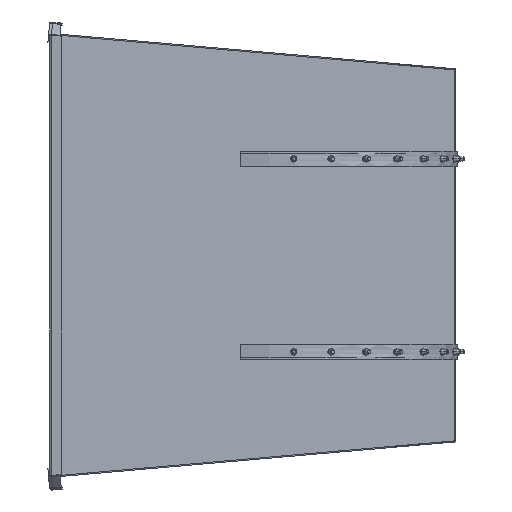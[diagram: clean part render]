
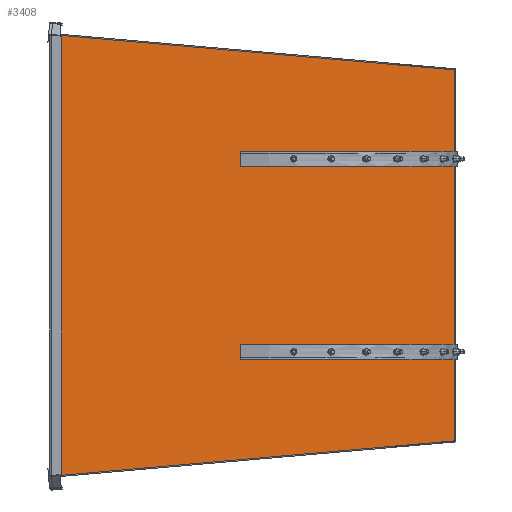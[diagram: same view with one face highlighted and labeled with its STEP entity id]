
A CAD part, left-side view. The second image highlights one B-rep face of the part: STEP entity #3408.
In plain terms, the highlighted planar face has unit normal (-0.707, -0.707, 0).
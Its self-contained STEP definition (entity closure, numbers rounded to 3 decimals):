
#279 = FACE_OUTER_BOUND ( 'NONE', #7654, .T. ) ;
#300 = DIRECTION ( 'NONE',  ( 0.706, -0.706, -0.062 ) ) ;
#365 = ORIENTED_EDGE ( 'NONE', *, *, #7656, .F. ) ;
#528 = ORIENTED_EDGE ( 'NONE', *, *, #5271, .T. ) ;
#534 = VERTEX_POINT ( 'NONE', #3857 ) ;
#754 = VERTEX_POINT ( 'NONE', #5859 ) ;
#820 = VERTEX_POINT ( 'NONE', #6514 ) ;
#825 = VERTEX_POINT ( 'NONE', #3319 ) ;
#893 = VECTOR ( 'NONE', #1180, 1000. ) ;
#940 = LINE ( 'NONE', #4391, #3255 ) ;
#1180 = DIRECTION ( 'NONE',  ( 0.706, -0.706, 0.062 ) ) ;
#1348 = EDGE_CURVE ( 'NONE', #534, #1471, #2914, .T. ) ;
#1471 = VERTEX_POINT ( 'NONE', #5296 ) ;
#1541 = VECTOR ( 'NONE', #3109, 1000. ) ;
#1861 = VECTOR ( 'NONE', #3702, 1000. ) ;
#1980 = PLANE ( 'NONE',  #2915 ) ;
#2080 = VECTOR ( 'NONE', #7611, 1000. ) ;
#2400 = CARTESIAN_POINT ( 'NONE',  ( -273.754, 1044.795, 571.97 ) ) ;
#2504 = DIRECTION ( 'NONE',  ( 0., 0., 1. ) ) ;
#2542 = ORIENTED_EDGE ( 'NONE', *, *, #4581, .T. ) ;
#2770 = VECTOR ( 'NONE', #3874, 1000. ) ;
#2914 = LINE ( 'NONE', #7698, #7230 ) ;
#2915 = AXIS2_PLACEMENT_3D ( 'NONE', #4590, #6462, #5252 ) ;
#3109 = DIRECTION ( 'NONE',  ( 0., 0., 1. ) ) ;
#3113 = CARTESIAN_POINT ( 'NONE',  ( -273.758, 1044.799, 572.156 ) ) ;
#3117 = VERTEX_POINT ( 'NONE', #2400 ) ;
#3159 = EDGE_CURVE ( 'NONE', #825, #820, #7429, .T. ) ;
#3255 = VECTOR ( 'NONE', #2504, 1000. ) ;
#3319 = CARTESIAN_POINT ( 'NONE',  ( 611.833, 159.208, -494.676 ) ) ;
#3408 = ADVANCED_FACE ( 'NONE', ( #279 ), #1980, .F. ) ;
#3409 = CARTESIAN_POINT ( 'NONE',  ( 611.833, 159.208, 494.676 ) ) ;
#3702 = DIRECTION ( 'NONE',  ( 0., 0., 1. ) ) ;
#3835 = ORIENTED_EDGE ( 'NONE', *, *, #3159, .T. ) ;
#3857 = CARTESIAN_POINT ( 'NONE',  ( 611.833, 159.208, -494.491 ) ) ;
#3874 = DIRECTION ( 'NONE',  ( 0., 0., -1. ) ) ;
#4156 = DIRECTION ( 'NONE',  ( -0.706, 0.706, -0.062 ) ) ;
#4391 = CARTESIAN_POINT ( 'NONE',  ( 611.833, 159.208, -1648. ) ) ;
#4560 = CARTESIAN_POINT ( 'NONE',  ( -273.754, 1044.795, 572.25 ) ) ;
#4581 = EDGE_CURVE ( 'NONE', #754, #7653, #5285, .T. ) ;
#4590 = CARTESIAN_POINT ( 'NONE',  ( -273.754, 1044.795, 572.25 ) ) ;
#4790 = CARTESIAN_POINT ( 'NONE',  ( -273.766, 1044.807, 571.971 ) ) ;
#5252 = DIRECTION ( 'NONE',  ( -0.707, 0.707, 0. ) ) ;
#5271 = EDGE_CURVE ( 'NONE', #820, #754, #6981, .T. ) ;
#5285 = LINE ( 'NONE', #3113, #2080 ) ;
#5296 = CARTESIAN_POINT ( 'NONE',  ( -273.754, 1044.795, -571.97 ) ) ;
#5383 = EDGE_CURVE ( 'NONE', #7446, #7653, #940, .T. ) ;
#5391 = ORIENTED_EDGE ( 'NONE', *, *, #5474, .T. ) ;
#5474 = EDGE_CURVE ( 'NONE', #3117, #1471, #6382, .T. ) ;
#5534 = CARTESIAN_POINT ( 'NONE',  ( 773.162, -2.121, -1648. ) ) ;
#5859 = CARTESIAN_POINT ( 'NONE',  ( 773.162, -2.121, 480.562 ) ) ;
#5969 = LINE ( 'NONE', #6862, #1541 ) ;
#6002 = ORIENTED_EDGE ( 'NONE', *, *, #6519, .F. ) ;
#6037 = VECTOR ( 'NONE', #300, 1000. ) ;
#6196 = CARTESIAN_POINT ( 'NONE',  ( 611.833, 159.208, 494.491 ) ) ;
#6382 = LINE ( 'NONE', #4560, #2770 ) ;
#6383 = CARTESIAN_POINT ( 'NONE',  ( -223.884, 994.925, -567.792 ) ) ;
#6462 = DIRECTION ( 'NONE',  ( 0.707, 0.707, 0. ) ) ;
#6514 = CARTESIAN_POINT ( 'NONE',  ( 773.162, -2.121, -480.562 ) ) ;
#6519 = EDGE_CURVE ( 'NONE', #825, #534, #5969, .T. ) ;
#6862 = CARTESIAN_POINT ( 'NONE',  ( 611.833, 159.208, -1648. ) ) ;
#6981 = LINE ( 'NONE', #5534, #1861 ) ;
#7230 = VECTOR ( 'NONE', #4156, 1000. ) ;
#7429 = LINE ( 'NONE', #6383, #893 ) ;
#7446 = VERTEX_POINT ( 'NONE', #6196 ) ;
#7549 = ORIENTED_EDGE ( 'NONE', *, *, #1348, .F. ) ;
#7611 = DIRECTION ( 'NONE',  ( -0.706, 0.706, 0.062 ) ) ;
#7653 = VERTEX_POINT ( 'NONE', #3409 ) ;
#7654 = EDGE_LOOP ( 'NONE', ( #528, #2542, #7977, #365, #5391, #7549, #6002, #3835 ) ) ;
#7656 = EDGE_CURVE ( 'NONE', #3117, #7446, #8155, .T. ) ;
#7698 = CARTESIAN_POINT ( 'NONE',  ( -223.892, 994.933, -567.607 ) ) ;
#7977 = ORIENTED_EDGE ( 'NONE', *, *, #5383, .F. ) ;
#8155 = LINE ( 'NONE', #4790, #6037 ) ;
